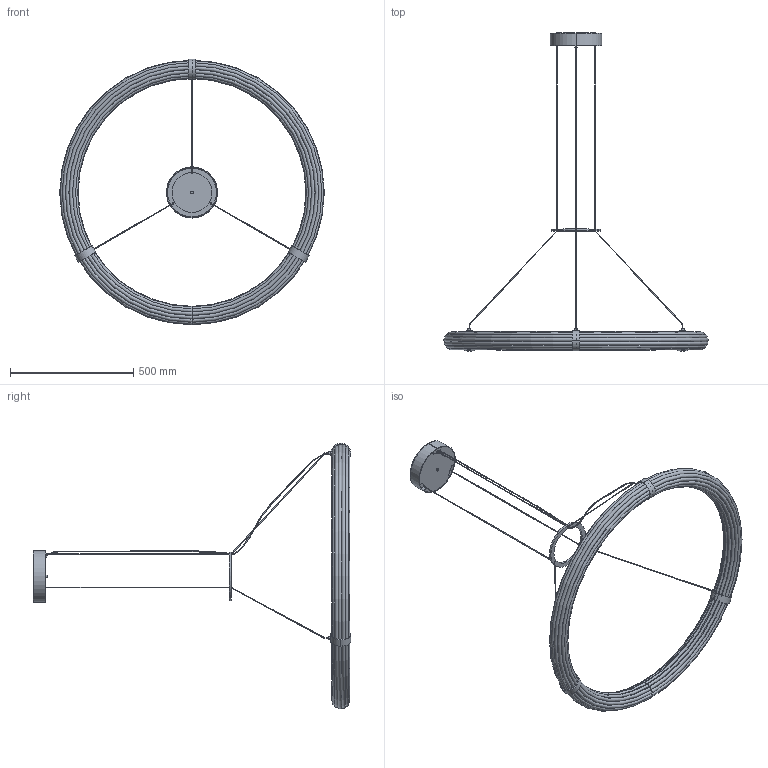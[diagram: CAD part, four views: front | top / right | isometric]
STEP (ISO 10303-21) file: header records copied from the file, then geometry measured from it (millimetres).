
FILE_DESCRIPTION (( 'STEP AP214' ), '1' );
FILE_NAME ('ELLI_CU1311-L.STEP', '2026-06-08T15:30:42', ( '' ), ( '' ), 'SwSTEP 2.0', 'SolidWorks 2023', '' );
FILE_SCHEMA (( 'AUTOMOTIVE_DESIGN' ));
Length unit declared in the file: inch
Products named in the file (1): ELLI_CU1311-L
Bounding box: 1074.55 x 1291.14 x 1078.27 mm (x, y, z)
Volume: 13107622.1 mm3; surface area: 1441901.2 mm2
Topology: 17 solids, 17 shells, 194 faces, 421 edges, 258 vertices
Faces by surface type: cylinder 88, torus 56, plane 48, bspline 2
Entity records: 6749 total; most frequent: CARTESIAN_POINT 2093, DIRECTION 1037, ORIENTED_EDGE 842, AXIS2_PLACEMENT_3D 451, EDGE_CURVE 421, CIRCLE 258, VERTEX_POINT 258, EDGE_LOOP 217
